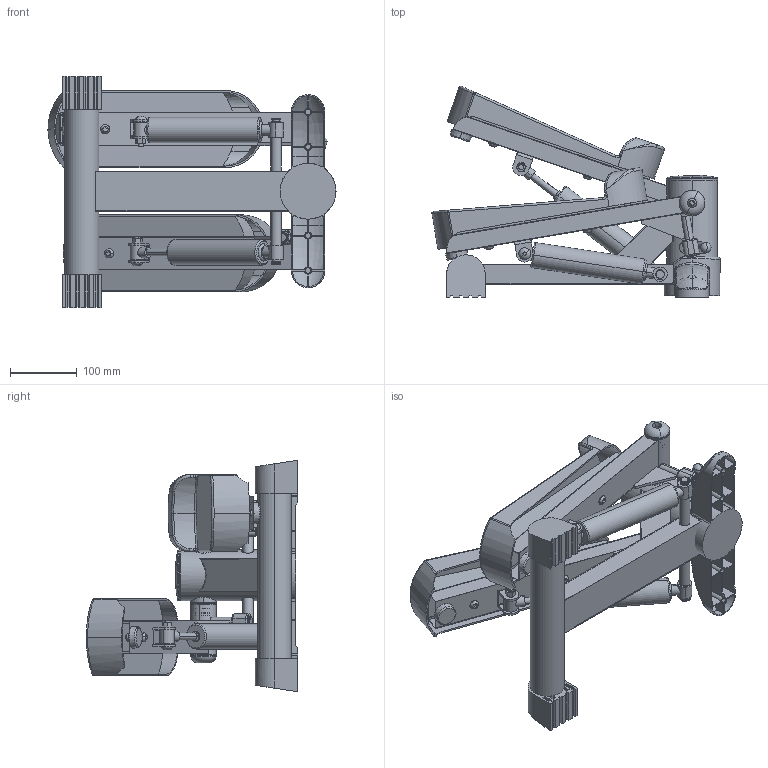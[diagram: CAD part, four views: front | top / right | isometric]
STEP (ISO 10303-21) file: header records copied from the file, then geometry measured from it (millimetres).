
FILE_DESCRIPTION (( 'STEP AP214' ), '1' );
FILE_NAME ('stepper (simulation).STEP', '2018-11-13T18:42:24', ( '' ), ( '' ), 'SwSTEP 2.0', 'SolidWorks 2012', '' );
FILE_SCHEMA (( 'AUTOMOTIVE_DESIGN' ));
Length unit declared in the file: millimetre
Products named in the file (37): Axe_10; Ensemble_pédale droite; Support_gauche; Entretoise_plast_14; chassis simplifie; Support_droite; Cache_plastique_16; DIN_RETEXT_12 x 1_1; ISO_bhcm_M8x1.25_16.0_16.0_He_Sim_1; vis M8 25; Entretoise_11; Compteur; Rondelle_formée_pédale; Ensemble_pédale gauche; DIN_RETEXT_10 x 1_1; Roulement_plastic_7; ISO_hnr1_M8x1.25_8.0_C_1; Boulon_M8; Amortisseur_17; Repose_pied; DIN_RETEXT_11 x 1_1; Châssis; Rondelle_15_bis; Pied_avant; Pied_arrière; Entretoise; Joint_piston; Tige_vérin_embout; Roulement+axe; Corps_vérin_extérieur; Piston_vérin; Corps_vérin_intérieur; Ensemble_corps_vérin; Tige_vérin_seule; ensemble_tige; Rondelle_roulement; stepper (simulation)
Assembly tree (58 placements, depth 3):
  stepper (simulation)
    chassis simplifie
      Châssis
      Pied_arrière  x2
      Pied_avant
      Rondelle_15_bis  x2
      Entretoise  x4
      Cache_plastique_16  x2
      Rondelle_formée_pédale  x2
      vis M8 25  x2
      Entretoise_plast_14  x3
      DIN_RETEXT_11 x 1_1  x2
      Compteur
    Ensemble_pédale droite
      Support_droite
      Amortisseur_17
      Repose_pied
      ISO_bhcm_M8x1.25_16.0_16.0_He_Sim_1  x2
      Boulon_M8
      Entretoise_11
      ISO_hnr1_M8x1.25_8.0_C_1
      DIN_RETEXT_12 x 1_1
    Ensemble_pédale gauche
      Support_gauche
      Repose_pied
      Amortisseur_17
      ISO_bhcm_M8x1.25_16.0_16.0_He_Sim_1  x2
      Boulon_M8
      Entretoise_11
      ISO_hnr1_M8x1.25_8.0_C_1
      DIN_RETEXT_10 x 1_1
    Roulement+axe
      Roulement_plastic_7
      Axe_10
      ISO_bhcm_M8x1.25_16.0_16.0_He_Sim_1
      Rondelle_roulement
    Ensemble_corps_vérin  x2
      Corps_vérin_intérieur
      Corps_vérin_extérieur
    ensemble_tige  x2
      Tige_vérin_seule
      Piston_vérin
      Tige_vérin_embout
      Joint_piston
Bounding box: 432.97 x 317.98 x 348 mm (x, y, z)
Volume: 1572518.1 mm3; surface area: 1446849.1 mm2
Topology: 56 solids, 57 shells, 1719 faces, 4171 edges, 2681 vertices
Faces by surface type: cylinder 735, plane 693, torus 175, bspline 50, cone 48, sphere 18
Entity records: 41670 total; most frequent: CARTESIAN_POINT 12199, DIRECTION 5994, ORIENTED_EDGE 5604, EDGE_CURVE 2802, AXIS2_PLACEMENT_3D 2323, VERTEX_POINT 1819, LINE 1348, VECTOR 1348
